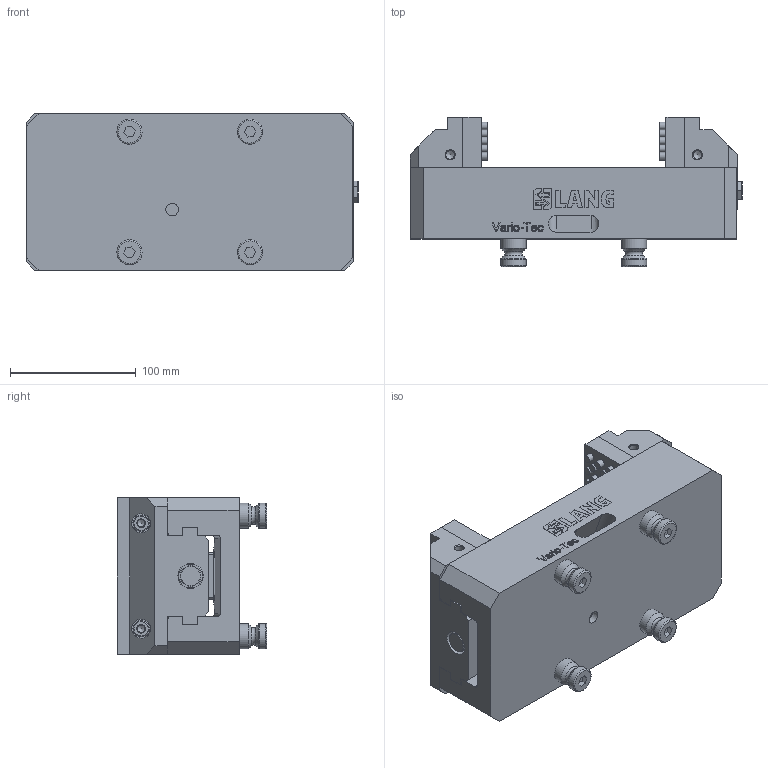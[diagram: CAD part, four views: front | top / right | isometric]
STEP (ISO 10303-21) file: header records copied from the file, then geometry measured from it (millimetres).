
FILE_DESCRIPTION (( 'STEP AP214' ), '1' );
FILE_NAME ('42152-125.STEP', '2020-03-16T08:08:58', ( '' ), ( '' ), 'SwSTEP 2.0', 'SolidWorks 2019', '' );
FILE_SCHEMA (( 'AUTOMOTIVE_DESIGN' ));
Length unit declared in the file: millimetre
Products named in the file (3): Vario-Tec_42152-125; 42018-125; 42152-125
Assembly tree (3 placements, depth 2):
  42152-125
    Vario-Tec_42152-125
    42018-125  x2
Bounding box: 264.41 x 119.01 x 125.24 mm (x, y, z)
Volume: 1835468.6 mm3; surface area: 294260.5 mm2
Topology: 50 solids, 50 shells, 1118 faces, 2589 edges, 1688 vertices
Faces by surface type: plane 709, cylinder 166, bspline 140, cone 79, torus 24
Full cylindrical faces by diameter (mm): 6 x92, 6.8 x8, 8 x4, 8.5 x8, 9 x4, 10 x1, 13 x4, 15 x4, 16 x8, 16.5 x1, 20 x12
Entity records: 40133 total; most frequent: CARTESIAN_POINT 10491, ORIENTED_EDGE 3920, DIRECTION 3425, EDGE_CURVE 1960, LINE 1387, VECTOR 1387, VERTEX_POINT 1367, EDGE_LOOP 1137
